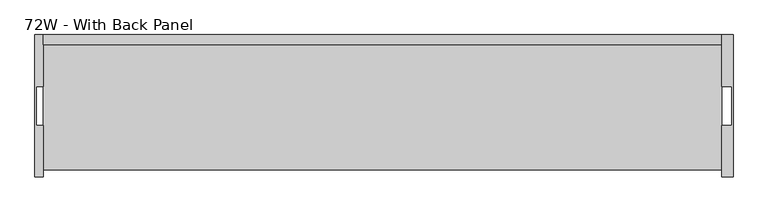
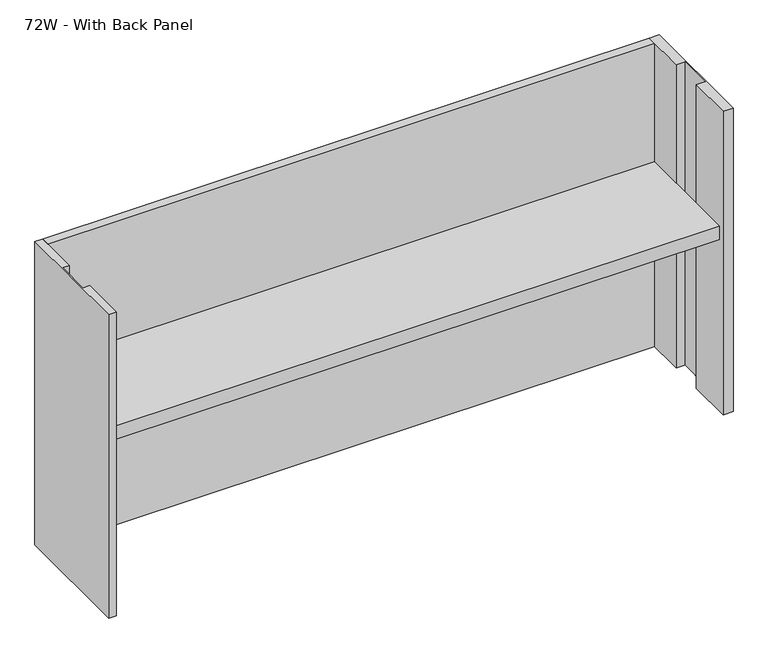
"""IFC4 building model written with IfcOpenShell, lengths in millimetres: furniture geometry, Steelcase - Kick Freestanding - Overhead Storage Cabinet With Shelves : 72W - With Back Panel."""

from ifc_helpers import new_model, si_unit, frame, origin, place, context, project, spatial, polyline, outline, extrude, source, transform, mapped, element, save


def furniture_72w_with_back_panel_3a874d2e(model_context):
    return source(origin(), model_context, "Body", "SweptSolid", [
        extrude(outline(polyline([(1787.3138992, -53.9750008), (1787.3138992, -377.8257956), (34.7138992, -377.8257956), (34.7138992, -53.9750008), (1787.3138992, -53.9750008)])), frame((0.0, 0.0, 1018.9431215), z_axis=(0.0, 0.0, 1.0), x_axis=(1.0, 0.0, 0.0)), (0.0, 0.0, 1.0), 41.2749516),
        extrude(outline(polyline([(1787.3138992, -28.575), (1816.1, -28.575), (1816.1, -396.875), (1787.3138992, -396.875), (1787.3138992, -263.5265924), (1812.923793, -263.5265924), (1812.923793, -161.9265984), (1787.3138992, -161.9265984), (1787.3138992, -28.575)])), frame((0.0, 0.0, 495.068073), z_axis=(0.0, 0.0, 1.0), x_axis=(1.0, 0.0, 0.0)), (0.0, 0.0, 1.0), 927.1),
        extrude(outline(polyline([(1787.3138992, -53.9750008), (34.7138992, -53.9750008), (34.7138992, -28.575), (1787.3138992, -28.575), (1787.3138992, -53.9750008)])), frame((0.0, 0.0, 495.068073), z_axis=(0.0, 0.0, 1.0), x_axis=(1.0, 0.0, 0.0)), (0.0, 0.0, 1.0), 927.1),
        extrude(outline(polyline([(34.7138992, -28.575), (34.7138992, -161.9250023), (15.8750004, -161.9250023), (15.8750004, -263.5249962), (34.7138992, -263.5249962), (34.7138992, -396.875), (12.7, -396.875), (12.7, -28.575), (34.7138992, -28.575)])), frame((0.0, 0.0, 495.068073), z_axis=(0.0, 0.0, 1.0), x_axis=(1.0, 0.0, 0.0)), (0.0, 0.0, 1.0), 927.1),
    ])


if __name__ == "__main__":
    model = new_model("IFC4")
    model_context = context("Model", 3, world=origin())
    ifc_project = project(units=[si_unit("LENGTHUNIT", "METRE", prefix="MILLI")], contexts=[model_context])
    site = spatial("IfcSite", under=ifc_project)
    building = spatial("IfcBuilding", under=site)
    placement = place(None, origin())
    furniture_72w_with_back_panel_shape = furniture_72w_with_back_panel_3a874d2e(model_context)
    element("IfcFurniture", 1, ObjectType="Steelcase - Kick Freestanding - Overhead Storage Cabinet With Shelves : 72W - With Back Panel", at=placement, inside=building, context=model_context, shape_type="MappedRepresentation", body=[
        mapped(furniture_72w_with_back_panel_shape, transform((0.0, 0.0, 0.0), x_axis=(1.0, 0.0, 0.0), y_axis=(0.0, 1.0, 0.0), z_axis=(0.0, 0.0, 1.0))),
    ])
    save(model, "model.ifc")
